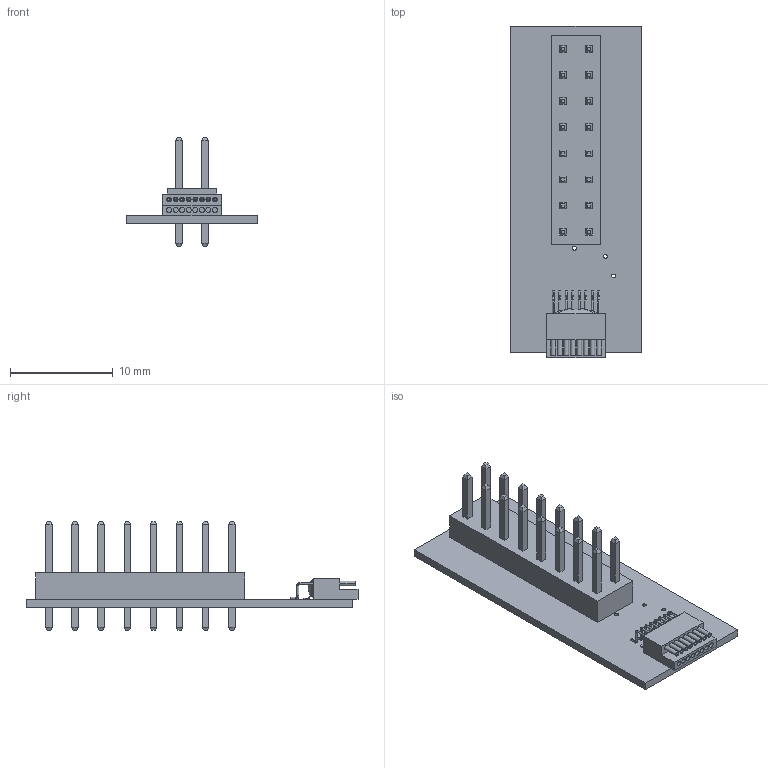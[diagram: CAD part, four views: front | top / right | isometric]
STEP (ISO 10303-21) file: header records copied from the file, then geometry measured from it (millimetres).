
FILE_DESCRIPTION (( 'STEP AP214' ), '1' );
FILE_NAME ('RHS_SPI_Cable_Adapter_socket.STEP', '2022-03-22T23:31:51', ( '' ), ( '' ), 'SwSTEP 2.0', 'SolidWorks 2022', '' );
FILE_SCHEMA (( 'AUTOMOTIVE_DESIGN' ));
Length unit declared in the file: inch
Products named in the file (4): RHS_SPI_Cable_Adapter_PCB; A79633-001; RHS_SPI_Cable_Adapter_socket; ConnHeader_16pos
Assembly tree (3 placements, depth 2):
  RHS_SPI_Cable_Adapter_socket
    RHS_SPI_Cable_Adapter_PCB
    A79633-001
    ConnHeader_16pos
Bounding box: 12.7 x 32.26 x 10.59 mm (x, y, z)
Volume: 641.2 mm3; surface area: 1733.4 mm2
Topology: 3 solids, 3 shells, 604 faces, 1443 edges, 891 vertices
Faces by surface type: plane 384, cylinder 164, bspline 40, cone 16
Entity records: 23301 total; most frequent: CARTESIAN_POINT 5420, ORIENTED_EDGE 2846, DIRECTION 2842, EDGE_CURVE 1423, LINE 978, VECTOR 978, AXIS2_PLACEMENT_3D 932, VERTEX_POINT 891
